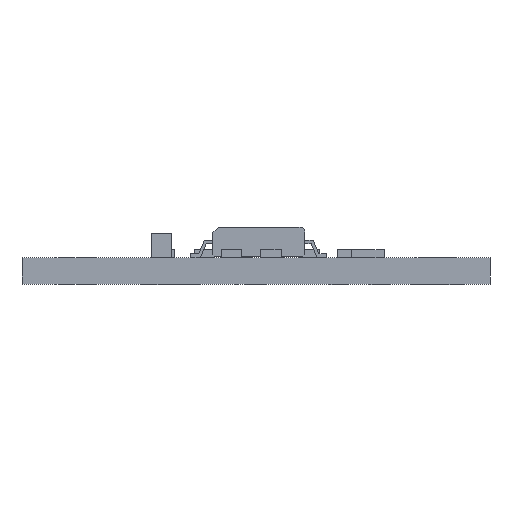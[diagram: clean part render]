
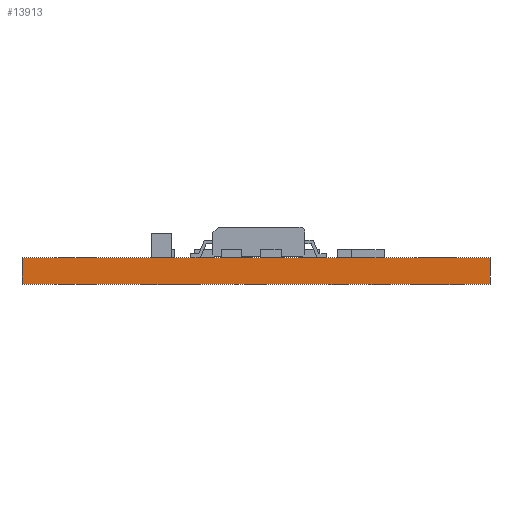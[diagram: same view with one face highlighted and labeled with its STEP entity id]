
A CAD part, front view. The second image highlights one B-rep face of the part: STEP entity #13913.
In plain terms, the highlighted planar face has unit normal (0, -1, 0).
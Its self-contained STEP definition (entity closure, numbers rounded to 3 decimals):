
#442 = FACE_OUTER_BOUND ( 'NONE', #19252, .T. ) ;
#561 = LINE ( 'NONE', #16372, #17183 ) ;
#584 = VECTOR ( 'NONE', #7400, 1000. ) ;
#793 = ORIENTED_EDGE ( 'NONE', *, *, #15692, .F. ) ;
#873 = DIRECTION ( 'NONE',  ( 0., 0., 1. ) ) ;
#882 = CARTESIAN_POINT ( 'NONE',  ( 19.25, -9.248, -1.6 ) ) ;
#1092 = EDGE_CURVE ( 'NONE', #3988, #7516, #561, .T. ) ;
#1102 = LINE ( 'NONE', #15377, #584 ) ;
#1392 = AXIS2_PLACEMENT_3D ( 'NONE', #882, #2522, #13762 ) ;
#1826 = CARTESIAN_POINT ( 'NONE',  ( 19.25, -9.248, 0. ) ) ;
#2464 = CARTESIAN_POINT ( 'NONE',  ( 19.25, -9.248, -1.6 ) ) ;
#2522 = DIRECTION ( 'NONE',  ( 0., 1., 0. ) ) ;
#2674 = LINE ( 'NONE', #5674, #10701 ) ;
#2792 = EDGE_CURVE ( 'NONE', #16148, #7516, #12146, .T. ) ;
#3988 = VERTEX_POINT ( 'NONE', #1826 ) ;
#4548 = ORIENTED_EDGE ( 'NONE', *, *, #1092, .T. ) ;
#5674 = CARTESIAN_POINT ( 'NONE',  ( 19.25, -9.248, -1.6 ) ) ;
#7400 = DIRECTION ( 'NONE',  ( -1., 0., 0. ) ) ;
#7516 = VERTEX_POINT ( 'NONE', #14397 ) ;
#8094 = ORIENTED_EDGE ( 'NONE', *, *, #10287, .T. ) ;
#8363 = VERTEX_POINT ( 'NONE', #2464 ) ;
#10287 = EDGE_CURVE ( 'NONE', #8363, #3988, #2674, .T. ) ;
#10701 = VECTOR ( 'NONE', #18540, 1000. ) ;
#10935 = ORIENTED_EDGE ( 'NONE', *, *, #2792, .F. ) ;
#12145 = PLANE ( 'NONE',  #1392 ) ;
#12146 = LINE ( 'NONE', #12549, #20186 ) ;
#12549 = CARTESIAN_POINT ( 'NONE',  ( -9.25, -9.248, -1.6 ) ) ;
#13762 = DIRECTION ( 'NONE',  ( 0., 0., 1. ) ) ;
#13913 = ADVANCED_FACE ( 'NONE', ( #442 ), #12145, .F. ) ;
#14397 = CARTESIAN_POINT ( 'NONE',  ( -9.25, -9.248, 0. ) ) ;
#15377 = CARTESIAN_POINT ( 'NONE',  ( 19.25, -9.248, -1.6 ) ) ;
#15514 = DIRECTION ( 'NONE',  ( -1., 0., 0. ) ) ;
#15692 = EDGE_CURVE ( 'NONE', #8363, #16148, #1102, .T. ) ;
#16148 = VERTEX_POINT ( 'NONE', #18690 ) ;
#16372 = CARTESIAN_POINT ( 'NONE',  ( 19.25, -9.248, 0. ) ) ;
#17183 = VECTOR ( 'NONE', #15514, 1000. ) ;
#18540 = DIRECTION ( 'NONE',  ( 0., 0., 1. ) ) ;
#18690 = CARTESIAN_POINT ( 'NONE',  ( -9.25, -9.248, -1.6 ) ) ;
#19252 = EDGE_LOOP ( 'NONE', ( #4548, #10935, #793, #8094 ) ) ;
#20186 = VECTOR ( 'NONE', #873, 1000. ) ;
